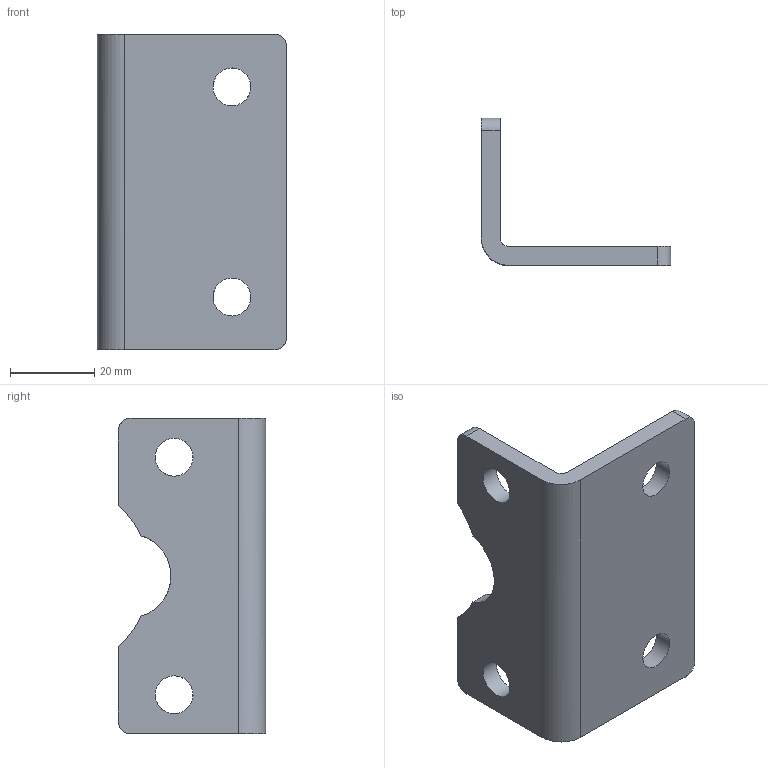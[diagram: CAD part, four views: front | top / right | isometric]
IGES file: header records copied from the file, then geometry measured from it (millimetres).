
Global section: file name: 1325_063_05-1F; native system: Autodesk Inventor 2014; preprocessor: unknown; organization: Pneumax S.p.A.; date: 20161014.140213; units: millimetre
Bounding box: 45 x 35 x 75 mm (x, y, z)
Volume: 22573 mm3; surface area: 11902.1 mm2
Topology: 1 solids, 1 shells, 22 faces, 64 edges, 44 vertices
Faces by surface type: bspline 22
